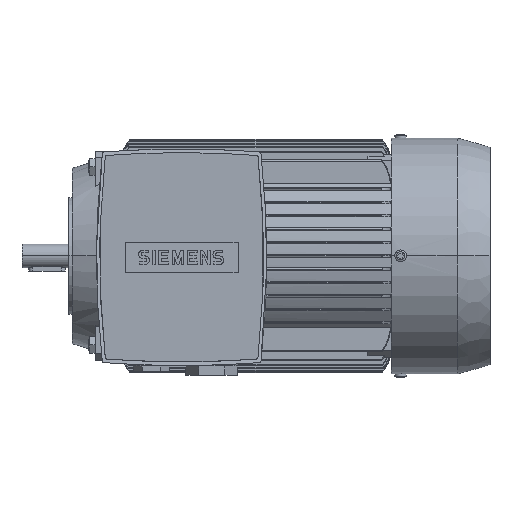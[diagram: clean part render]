
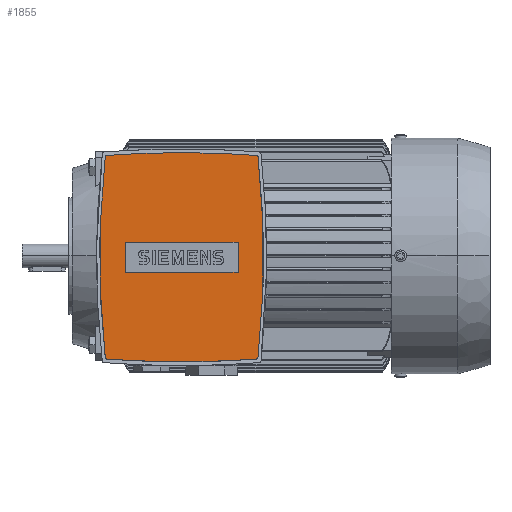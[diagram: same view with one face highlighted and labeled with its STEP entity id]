
A CAD part, top view. The second image highlights one B-rep face of the part: STEP entity #1855.
In plain terms, the highlighted planar face has unit normal (0, 0, 1).
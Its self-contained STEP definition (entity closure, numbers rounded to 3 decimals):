
#1855=ADVANCED_FACE('',(#3909,#3910),#3911,.T.);
#3909=FACE_BOUND('',#6147,.T.);
#3910=FACE_OUTER_BOUND('',#6148,.T.);
#3911=PLANE('',#6149);
#6147=EDGE_LOOP('',(#11870,#11871,#11872,#11873));
#6148=EDGE_LOOP('',(#11874,#11875,#11876,#11877,#11878,#11879));
#6149=AXIS2_PLACEMENT_3D('',#11880,#11881,#11882);
#11870=ORIENTED_EDGE('',*,*,#15444,.T.);
#11871=ORIENTED_EDGE('',*,*,#15448,.T.);
#11872=ORIENTED_EDGE('',*,*,#15451,.T.);
#11873=ORIENTED_EDGE('',*,*,#15453,.T.);
#11874=ORIENTED_EDGE('',*,*,#15529,.T.);
#11875=ORIENTED_EDGE('',*,*,#15531,.T.);
#11876=ORIENTED_EDGE('',*,*,#13546,.T.);
#11877=ORIENTED_EDGE('',*,*,#15523,.T.);
#11878=ORIENTED_EDGE('',*,*,#13557,.T.);
#11879=ORIENTED_EDGE('',*,*,#15520,.T.);
#11880=CARTESIAN_POINT('',(42.5,-1.0,149.0));
#11881=DIRECTION('',(0.0,0.0,1.0));
#11882=DIRECTION('',(0.0,-1.0,0.0));
#13546=EDGE_CURVE('',#16307,#16311,#16313,.T.);
#13557=EDGE_CURVE('',#16333,#16330,#16334,.T.);
#15444=EDGE_CURVE('',#19152,#19150,#19153,.T.);
#15448=EDGE_CURVE('',#19150,#19156,#19158,.T.);
#15451=EDGE_CURVE('',#19156,#19160,#19162,.T.);
#15453=EDGE_CURVE('',#19160,#19152,#19164,.T.);
#15520=EDGE_CURVE('',#16330,#19259,#19261,.T.);
#15523=EDGE_CURVE('',#16311,#16333,#19264,.T.);
#15529=EDGE_CURVE('',#19259,#19269,#19271,.T.);
#15531=EDGE_CURVE('',#19269,#16307,#19273,.T.);
#16307=VERTEX_POINT('',#20640);
#16311=VERTEX_POINT('',#20645);
#16313=CIRCLE('',#20648,630.36);
#16330=VERTEX_POINT('',#20690);
#16333=VERTEX_POINT('',#20694);
#16334=CIRCLE('',#20695,630.36);
#19150=VERTEX_POINT('',#29525);
#19152=VERTEX_POINT('',#29528);
#19153=LINE('',#29529,#29530);
#19156=VERTEX_POINT('',#29534);
#19158=LINE('',#29537,#29538);
#19160=VERTEX_POINT('',#29540);
#19162=LINE('',#29543,#29544);
#19164=LINE('',#29546,#29547);
#19259=VERTEX_POINT('',#29685);
#19261=CIRCLE('',#29688,630.36);
#19264=CIRCLE('',#29691,554.4);
#19269=VERTEX_POINT('',#29697);
#19271=CIRCLE('',#29700,554.4);
#19273=CIRCLE('',#29702,630.36);
#20640=CARTESIAN_POINT('',(42.5,-63.5,149.0));
#20645=CARTESIAN_POINT('',(88.151,-61.845,149.0));
#20648=AXIS2_PLACEMENT_3D('',#30963,#30964,#30965);
#20690=CARTESIAN_POINT('',(42.5,61.5,149.0));
#20694=CARTESIAN_POINT('',(88.151,59.845,149.0));
#20695=AXIS2_PLACEMENT_3D('',#30979,#30980,#30981);
#29525=CARTESIAN_POINT('',(8.75,-10.05,149.0));
#29528=CARTESIAN_POINT('',(76.25,-10.05,149.0));
#29529=CARTESIAN_POINT('',(42.5,-10.05,149.0));
#29530=VECTOR('',#32606,1.0);
#29534=CARTESIAN_POINT('',(8.75,8.05,149.0));
#29537=CARTESIAN_POINT('',(8.75,-1.0,149.0));
#29538=VECTOR('',#32609,1.0);
#29540=CARTESIAN_POINT('',(76.25,8.05,149.0));
#29543=CARTESIAN_POINT('',(42.5,8.05,149.0));
#29544=VECTOR('',#32611,1.0);
#29546=CARTESIAN_POINT('',(76.25,-1.0,149.0));
#29547=VECTOR('',#32612,1.0);
#29685=CARTESIAN_POINT('',(-3.151,59.845,149.0));
#29688=AXIS2_PLACEMENT_3D('',#32711,#32712,#32713);
#29691=AXIS2_PLACEMENT_3D('',#32714,#32715,#32716);
#29697=CARTESIAN_POINT('',(-3.151,-61.845,149.0));
#29700=AXIS2_PLACEMENT_3D('',#32719,#32720,#32721);
#29702=AXIS2_PLACEMENT_3D('',#32722,#32723,#32724);
#30963=CARTESIAN_POINT('',(42.5,566.86,149.0));
#30964=DIRECTION('',(0.0,-0.0,1.0));
#30965=DIRECTION('',(0.0,1.0,0.0));
#30979=CARTESIAN_POINT('',(42.5,-568.86,149.0));
#30980=DIRECTION('',(0.0,-0.0,1.0));
#30981=DIRECTION('',(0.0,1.0,0.0));
#32606=DIRECTION('',(-1.0,0.0,0.0));
#32609=DIRECTION('',(0.0,1.0,0.0));
#32611=DIRECTION('',(1.0,0.0,-0.0));
#32612=DIRECTION('',(0.0,-1.0,0.0));
#32711=CARTESIAN_POINT('',(42.5,-568.86,149.0));
#32712=DIRECTION('',(0.0,-0.0,1.0));
#32713=DIRECTION('',(0.0,1.0,0.0));
#32714=CARTESIAN_POINT('',(-462.9,-1.0,149.0));
#32715=DIRECTION('',(0.0,-0.0,1.0));
#32716=DIRECTION('',(0.0,1.0,0.0));
#32719=CARTESIAN_POINT('',(547.9,-1.0,149.0));
#32720=DIRECTION('',(0.0,-0.0,1.0));
#32721=DIRECTION('',(0.0,1.0,0.0));
#32722=CARTESIAN_POINT('',(42.5,566.86,149.0));
#32723=DIRECTION('',(0.0,-0.0,1.0));
#32724=DIRECTION('',(0.0,1.0,0.0));
